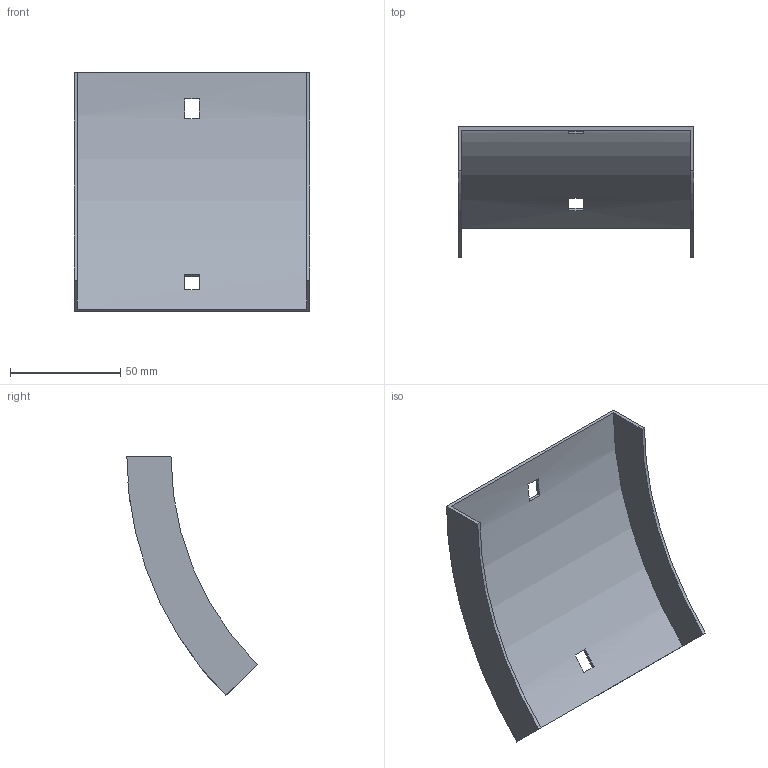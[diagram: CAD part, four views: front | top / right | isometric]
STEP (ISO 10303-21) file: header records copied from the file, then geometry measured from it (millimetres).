
FILE_DESCRIPTION (( 'STEP AP214' ), '1' );
FILE_NAME ('34N1B100.step', '2025-02-21T09:14:47', ( '' ), ( '' ), 'SwSTEP 2.0', 'SolidWorks 2023', '' );
FILE_SCHEMA (( 'AUTOMOTIVE_DESIGN' ));
Length unit declared in the file: millimetre
Products named in the file (1): 34N1B100
Bounding box: 107 x 59.1 x 108.54 mm (x, y, z)
Volume: 25301 mm3; surface area: 34576.5 mm2
Topology: 1 solids, 1 shells, 18 faces, 48 edges, 32 vertices
Faces by surface type: plane 14, cylinder 4
Entity records: 599 total; most frequent: DIRECTION 102, CARTESIAN_POINT 99, ORIENTED_EDGE 96, EDGE_CURVE 48, AXIS2_PLACEMENT_3D 35, VECTOR 32, LINE 32, VERTEX_POINT 32
